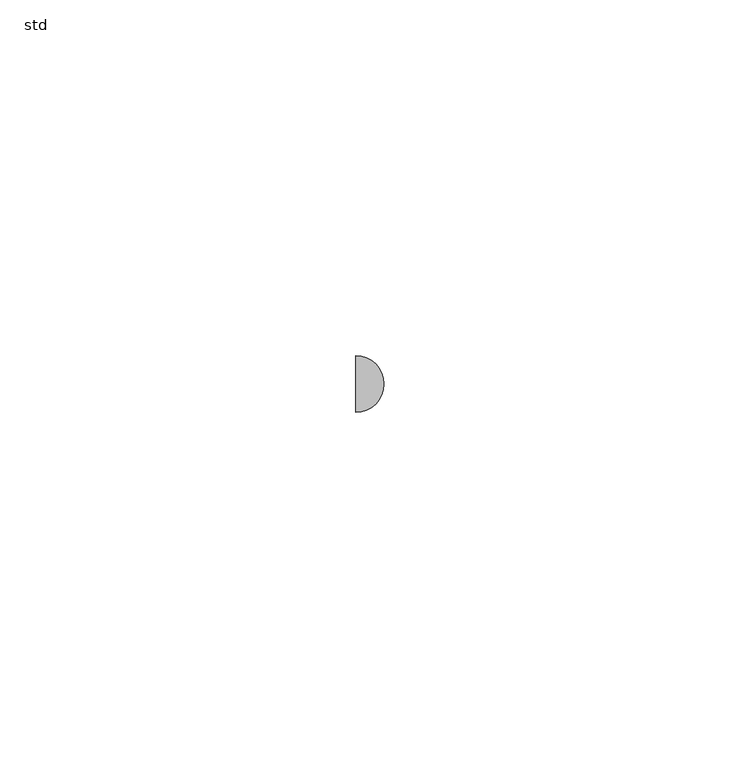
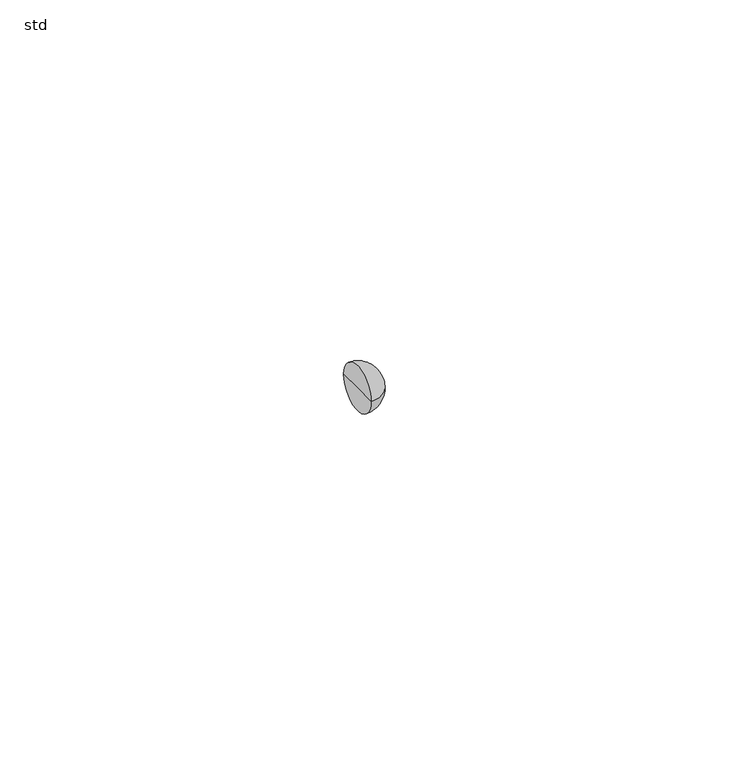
"""IFC4 building model written with IfcOpenShell, lengths in millimetres: pipe fitting geometry, PIF_ST_UN_GM-X multireducer_ACO : std."""

import ifcopenshell
import ifcopenshell.guid

model = None  # the IFC model being written
_history = None  # IfcOwnerHistory: only IFC2X3 demands one
_inside = {}  # id of a spatial element -> (the spatial element, [elements in it])
_under = {}  # id of a project, library or spatial element -> (it, [spatial elements below it])
_declared = {}  # id of a project -> (the project, [libraries it declares])
_typed = {}  # id of a type object -> (the type object, [elements of that type])
_made_of = {}  # id of a material, layer set ... -> (it, [elements and type objects made of it])


def new_model(schema):
    """Start an empty IFC model of exactly this schema.

    Asked for "IFC4X3", IfcOpenShell would pick the latest addendum, in which some entities
    have other attributes; the version numbers below select the first issue.
    IFC2X3 requires an IfcOwnerHistory on every rooted entity: one is made here for all.
    """
    global model, _history
    if schema == "IFC4X3":
        model = ifcopenshell.file(schema_version=(4, 3, 0, 0))
    else:
        model = ifcopenshell.file(schema=schema)
    _inside.clear()
    _under.clear()
    _declared.clear()
    _typed.clear()
    _made_of.clear()
    _history = None
    if model.schema == "IFC2X3":
        org = make("IfcOrganization", Name="unknown")
        user = make(
            "IfcPersonAndOrganization",
            ThePerson=make("IfcPerson", FamilyName="unknown"),
            TheOrganization=org,
        )
        app = make(
            "IfcApplication",
            ApplicationDeveloper=org,
            Version="unknown",
            ApplicationFullName="unknown",
            ApplicationIdentifier="unknown",
        )
        _history = make(
            "IfcOwnerHistory",
            OwningUser=user,
            OwningApplication=app,
            ChangeAction="ADDED",
            CreationDate=0,
        )
    return model


def make(cls, **values):
    """One entity of the class cls with the attributes given. An attribute that is None is left unset."""
    return model.create_entity(
        cls, **{name: value for name, value in values.items() if value is not None}
    )


def rooted(cls, **values):
    """An entity with a GlobalId (a new one), such as an element, a storey or a relation."""
    return make(cls, GlobalId=ifcopenshell.guid.new(), OwnerHistory=_history, **values)


def si_unit(unit_type, name, prefix=None):
    """IfcSIUnit, for example si_unit("LENGTHUNIT", "METRE", prefix="MILLI")."""
    return make("IfcSIUnit", UnitType=unit_type, Prefix=prefix, Name=name)


def assignment(units):
    """IfcUnitAssignment: the units of a project."""
    return None if units is None else make("IfcUnitAssignment", Units=units)


def point(xyz):
    """IfcCartesianPoint."""
    return None if xyz is None else make("IfcCartesianPoint", Coordinates=xyz)


def direction(xyz):
    """IfcDirection."""
    return None if xyz is None else make("IfcDirection", DirectionRatios=xyz)


def frame(location, z_axis=None, x_axis=None):
    """IfcAxis2Placement3D, a coordinate frame: its origin and axes. An axis left out is left unset."""
    return make(
        "IfcAxis2Placement3D",
        Location=point(location),
        Axis=direction(z_axis),
        RefDirection=direction(x_axis),
    )


def origin():
    """The frame at (0, 0, 0) with its axes left unset."""
    return frame((0.0, 0.0, 0.0))


def place(relative_to, where):
    """IfcLocalPlacement: puts the frame where relative to a parent placement (None: the world)."""
    return make(
        "IfcLocalPlacement", PlacementRelTo=relative_to, RelativePlacement=where
    )


def context(
    kind, dimensions, precision=None, world=None, true_north=None, identifier=None
):
    """IfcGeometricRepresentationContext, for example the 3D "Model" context."""
    return make(
        "IfcGeometricRepresentationContext",
        ContextIdentifier=identifier,
        ContextType=kind,
        CoordinateSpaceDimension=dimensions,
        Precision=precision,
        WorldCoordinateSystem=world,
        TrueNorth=true_north,
    )


def project(units=None, contexts=None):
    """IfcProject with its units and contexts."""
    return rooted(
        "IfcProject",
        Name="project",
        RepresentationContexts=contexts,
        UnitsInContext=assignment(units),
    )


def spatial(cls, under=None, at=None, **own):
    """A site, building, storey or space (cls), placed at a placement, below another one or the project."""
    s = rooted(cls, ObjectPlacement=at, **own)
    if under is not None:
        _under.setdefault(under.id(), (under, []))[1].append(s)
    return s


def circle_curve(where, radius):
    """IfcCircle in the frame where."""
    return make("IfcCircle", Position=where, Radius=radius)


def ellipse_curve(where, semi_axis1, semi_axis2):
    """IfcEllipse in the frame where."""
    return make(
        "IfcEllipse", Position=where, SemiAxis1=semi_axis1, SemiAxis2=semi_axis2
    )


def trimmed(basis, trim1, trim2, sense, master):
    """IfcTrimmedCurve: the piece of a basis curve between two trims."""
    return make(
        "IfcTrimmedCurve",
        BasisCurve=basis,
        Trim1=trim1,
        Trim2=trim2,
        SenseAgreement=sense,
        MasterRepresentation=master,
    )


def shape(context_of_items, identifier, shape_type, items):
    """IfcShapeRepresentation: the items that make up one representation, for example the "Body"."""
    return make(
        "IfcShapeRepresentation",
        ContextOfItems=context_of_items,
        RepresentationIdentifier=identifier,
        RepresentationType=shape_type,
        Items=items,
    )


def source(mapping_origin, context_of_items, identifier, shape_type, items):
    """IfcRepresentationMap: a shape defined once, which mapped items show again and again."""
    return make(
        "IfcRepresentationMap",
        MappingOrigin=mapping_origin,
        MappedRepresentation=shape(context_of_items, identifier, shape_type, items),
    )


def transform(
    local_origin,
    x_axis=None,
    y_axis=None,
    z_axis=None,
    scale=None,
    scale2=None,
    scale3=None,
    uniform=True,
):
    """IfcCartesianTransformationOperator3D, or its non-uniform kind. x_axis, y_axis, z_axis: its Axis1, 2, 3."""
    if uniform:
        return make(
            "IfcCartesianTransformationOperator3D",
            Axis1=direction(x_axis),
            Axis2=direction(y_axis),
            LocalOrigin=point(local_origin),
            Scale=scale,
            Axis3=direction(z_axis),
        )
    return make(
        "IfcCartesianTransformationOperator3DnonUniform",
        Axis1=direction(x_axis),
        Axis2=direction(y_axis),
        LocalOrigin=point(local_origin),
        Scale=scale,
        Axis3=direction(z_axis),
        Scale2=scale2,
        Scale3=scale3,
    )


def mapped(mapping_source, mapping_target):
    """IfcMappedItem: shows the shape of a source again, moved by a transform."""
    return make(
        "IfcMappedItem", MappingSource=mapping_source, MappingTarget=mapping_target
    )


def made_of(thing, what):
    """Note that an element or type object is made of a material, layer set ...; save() writes the relation."""
    if what is not None:
        _made_of.setdefault(what.id(), (what, []))[1].append(thing)
    return thing


def element(
    cls,
    number,
    at=None,
    inside=None,
    cuts=None,
    type_object=None,
    material=None,
    context=None,
    identifier="Body",
    shape_type=None,
    held_by="IfcProductDefinitionShape",
    body=None,
    shapes=None,
    **own,
):
    """One element of the class cls, such as IfcWall. Its Tag is "e" and its number.

    at: its placement. inside: the storey or other place that contains it. cuts: it is an
    opening in that element (IfcRelVoidsElement). A single representation is given by context,
    identifier, shape_type and body (its items); several are given by shapes. held_by: the class
    of the entity that holds the representations. save() writes the other relations.
    """
    e = rooted(cls, Tag="e%d" % number, ObjectPlacement=at, **own)
    if body is not None:
        shapes = [shape(context, identifier, shape_type, body)]
    if shapes is not None:
        e.Representation = make(held_by, Representations=shapes)
    if inside is not None:
        _inside.setdefault(inside.id(), (inside, []))[1].append(e)
    if cuts is not None:
        rooted(
            "IfcRelVoidsElement", RelatingBuildingElement=cuts, RelatedOpeningElement=e
        )
    if type_object is not None:
        _typed.setdefault(type_object.id(), (type_object, []))[1].append(e)
    return made_of(e, material)


def aggregate(whole, parts):
    """IfcRelAggregates: a whole, such as a stair, and the parts it consists of."""
    return rooted("IfcRelAggregates", RelatingObject=whole, RelatedObjects=parts)


def save(model, path):
    """Write the relations noted so far, then the file.

    IfcRelAggregates (storeys below a building ...), IfcRelContainedInSpatialStructure (elements
    in a storey), IfcRelDefinesByType, IfcRelAssociatesMaterial and IfcRelDeclares: one each for
    every whole, place, type object, material and project.
    """
    for whole, parts in _under.values():
        aggregate(whole, parts)
    for where, things in _inside.values():
        rooted(
            "IfcRelContainedInSpatialStructure",
            RelatedElements=things,
            RelatingStructure=where,
        )
    for kind, things in _typed.values():
        rooted("IfcRelDefinesByType", RelatedObjects=things, RelatingType=kind)
    for what, things in _made_of.values():
        rooted("IfcRelAssociatesMaterial", RelatedObjects=things, RelatingMaterial=what)
    for by, libraries in _declared.values():
        rooted("IfcRelDeclares", RelatingContext=by, RelatedDefinitions=libraries)
    model.write(path)


def plane_surface(at):
    """IfcPlane: the flat surface through the origin of the frame at, square to its z axis."""
    return make("IfcPlane", Position=at)


def revolved_surface(curve, axis_point, axis_direction):
    """IfcSurfaceOfRevolution: the curve turned about the line through axis_point along axis_direction."""
    return make(
        "IfcSurfaceOfRevolution",
        SweptCurve=make("IfcArbitraryOpenProfileDef", ProfileType="CURVE", Curve=curve),
        AxisPosition=make("IfcAxis1Placement", Location=point(axis_point), Axis=direction(axis_direction)),
    )


def advanced_brep(points, edges, surfaces, faces):
    """IfcAdvancedBrep: a solid bounded by faces that lie on surfaces and meet in shared edges.

    An edge is (start, end): straight between two places in points (the first is 0);
    or (start, end, curve); or (start, end, curve, False) where it runs against its curve.
    A face is (place in surfaces, loops), or (place, loops, False) where it looks against
    its surface's normal. A loop lists edges by number (the first is 1), with a minus sign
    where the edge is run from its end to its start. The first loop is the outer one.
    """
    corners = [point(p) for p in points]
    vertices = [make("IfcVertexPoint", VertexGeometry=c) for c in corners]
    made = []
    for start, end, *more in edges:
        made.append(
            make(
                "IfcEdgeCurve",
                EdgeStart=vertices[start],
                EdgeEnd=vertices[end],
                EdgeGeometry=more[0] if more else make("IfcPolyline", Points=[corners[start], corners[end]]),
                SameSense=more[1] if len(more) > 1 else True,
            )
        )
    hull = []
    for where, loops, *sense in faces:
        bounds = []
        for j, loop in enumerate(loops):
            ring = [make("IfcOrientedEdge", EdgeElement=made[abs(k) - 1], Orientation=k > 0) for k in loop]
            bounds.append(
                make(
                    "IfcFaceOuterBound" if j == 0 else "IfcFaceBound",
                    Bound=make("IfcEdgeLoop", EdgeList=ring),
                    Orientation=True,
                )
            )
        hull.append(make("IfcAdvancedFace", Bounds=bounds, FaceSurface=surfaces[where], SameSense=sense[0] if sense else True))
    return make("IfcAdvancedBrep", Outer=make("IfcClosedShell", CfsFaces=hull))


def std_5a9869cf(model_context):
    return source(origin(), model_context, "Body", "AdvancedBrep", [
        advanced_brep(
        [(-97.0, 0.0, 0.0), (-97.0, 4.0, 0.0), (-97.0, -4.0, 0.0), (-93.0, 0.0, 0.0)],
        [
            (0, 1),
            (1, 2, circle_curve(frame((-97.0, 0.0, 0.0), z_axis=(-1.0, 0.0, 0.0), x_axis=(0.0, 1.0, 0.0)), 4.0)),
            (2, 0),
            (2, 1, circle_curve(frame((-97.0, 0.0, 0.0), z_axis=(-1.0, 0.0, 0.0), x_axis=(0.0, 1.0, 0.0)), 4.0)),
            (1, 3, circle_curve(frame((-97.0, 0.0, 0.0), z_axis=(0.0, 0.0, -1.0), x_axis=(1.0, 0.0, 0.0)), 4.0)),
            (3, 2, circle_curve(frame((-97.0, 0.0, 0.0), z_axis=(0.0, 0.0, -1.0), x_axis=(1.0, 0.0, 0.0)), 4.0)),
        ],
        [
            plane_surface(frame((-97.0, 0.0, 0.0), z_axis=(-1.0, 0.0, 0.0), x_axis=(0.0, 1.0, 0.0))),
            revolved_surface(trimmed(ellipse_curve(frame((-97.0, 0.0, 0.0), z_axis=(0.0, 0.0, 1.0), x_axis=(1.0, 0.0, 0.0)), 4.0, 4.0), [point((-93.0, 0.0, 0.0))], [point((-97.0, 4.0, 0.0))], True, "CARTESIAN"), (-110.6508039, 0.0, 0.0), (-1.0, 0.0, 0.0)),
        ],
        [
            (0, [[1, 2, 3]]),
            (0, [[-3, 4, -1]]),
            (1, [[-2, 5, 6]]),
            (1, [[-4, -6, -5]]),
        ],
    ),
    ])


if __name__ == "__main__":
    model = new_model("IFC4")
    model_context = context("Model", 3, world=origin())
    ifc_project = project(units=[si_unit("LENGTHUNIT", "METRE", prefix="MILLI")], contexts=[model_context])
    site = spatial("IfcSite", under=ifc_project)
    building = spatial("IfcBuilding", under=site)
    placement = place(None, origin())
    std_shape = std_5a9869cf(model_context)
    element("IfcPipeFitting", 1, ObjectType="PIF_ST_UN_GM-X multireducer_ACO : std", at=placement, inside=building, context=model_context, shape_type="MappedRepresentation", body=[
        mapped(std_shape, transform((0.0, 0.0, 0.0), x_axis=(1.0, 0.0, 0.0), y_axis=(0.0, 1.0, 0.0), z_axis=(0.0, 0.0, 1.0))),
    ])
    save(model, "model.ifc")
